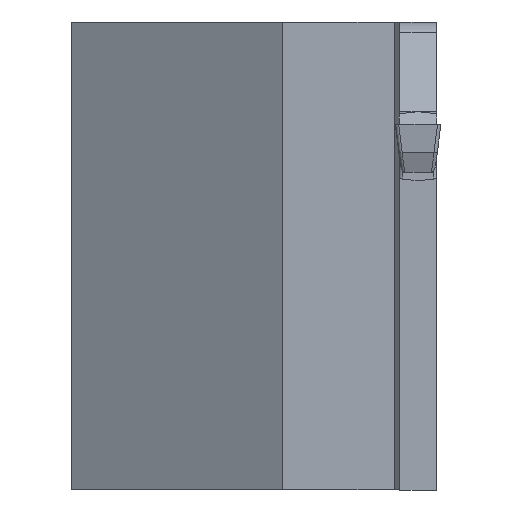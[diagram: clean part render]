
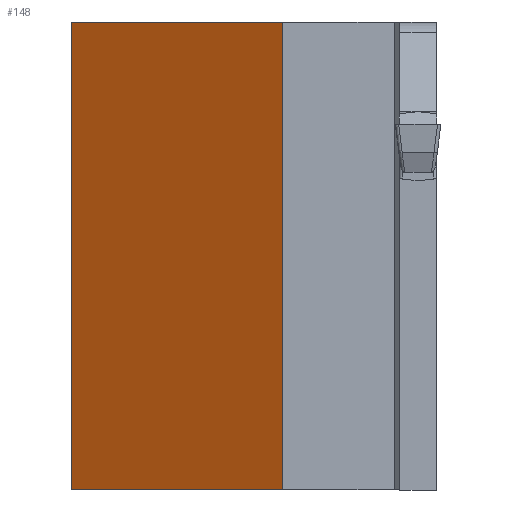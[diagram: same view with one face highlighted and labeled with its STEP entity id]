
A CAD part, left-side view. The second image highlights one B-rep face of the part: STEP entity #148.
In plain terms, the highlighted planar face has unit normal (-0.866, 0.5, 0).
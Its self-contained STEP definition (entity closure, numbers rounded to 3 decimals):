
#148=ADVANCED_FACE('',(#247),#204,.T.);
#204=PLANE('',#1138);
#247=FACE_OUTER_BOUND('',#303,.T.);
#303=EDGE_LOOP('',(#391,#392,#393,#394));
#391=ORIENTED_EDGE('',*,*,#768,.F.);
#392=ORIENTED_EDGE('',*,*,#775,.F.);
#393=ORIENTED_EDGE('',*,*,#776,.F.);
#394=ORIENTED_EDGE('',*,*,#773,.F.);
#668=VERTEX_POINT('',#1542);
#669=VERTEX_POINT('',#1544);
#672=VERTEX_POINT('',#1551);
#673=VERTEX_POINT('',#1558);
#768=EDGE_CURVE('',#668,#669,#914,.T.);
#773=EDGE_CURVE('',#669,#672,#919,.T.);
#775=EDGE_CURVE('',#673,#668,#921,.T.);
#776=EDGE_CURVE('',#672,#673,#922,.T.);
#914=LINE('',#1543,#1032);
#919=LINE('',#1553,#1037);
#921=LINE('',#1557,#1039);
#922=LINE('',#1559,#1040);
#1032=VECTOR('',#1245,1.);
#1037=VECTOR('',#1252,1.);
#1039=VECTOR('',#1258,1.);
#1040=VECTOR('',#1259,1.);
#1138=AXIS2_PLACEMENT_3D('',#1560,#1260,#1261);
#1245=DIRECTION('',(-0.5,-0.866,0.));
#1252=DIRECTION('',(0.,0.,-1.));
#1258=DIRECTION('',(0.,0.,1.));
#1259=DIRECTION('',(0.5,0.866,0.));
#1260=DIRECTION('',(-0.866,0.5,0.));
#1261=DIRECTION('',(-0.5,-0.866,0.));
#1542=CARTESIAN_POINT('',(34.319,36.166,8.979));
#1543=CARTESIAN_POINT('',(30.277,29.166,8.979));
#1544=CARTESIAN_POINT('',(23.612,17.622,8.979));
#1551=CARTESIAN_POINT('',(23.612,17.622,-32.021));
#1553=CARTESIAN_POINT('',(23.612,17.622,8.979));
#1557=CARTESIAN_POINT('',(34.319,36.166,-22.521));
#1558=CARTESIAN_POINT('',(34.319,36.166,-32.021));
#1559=CARTESIAN_POINT('',(13.536,0.169,-32.021));
#1560=CARTESIAN_POINT('',(30.277,29.166,-22.521));
